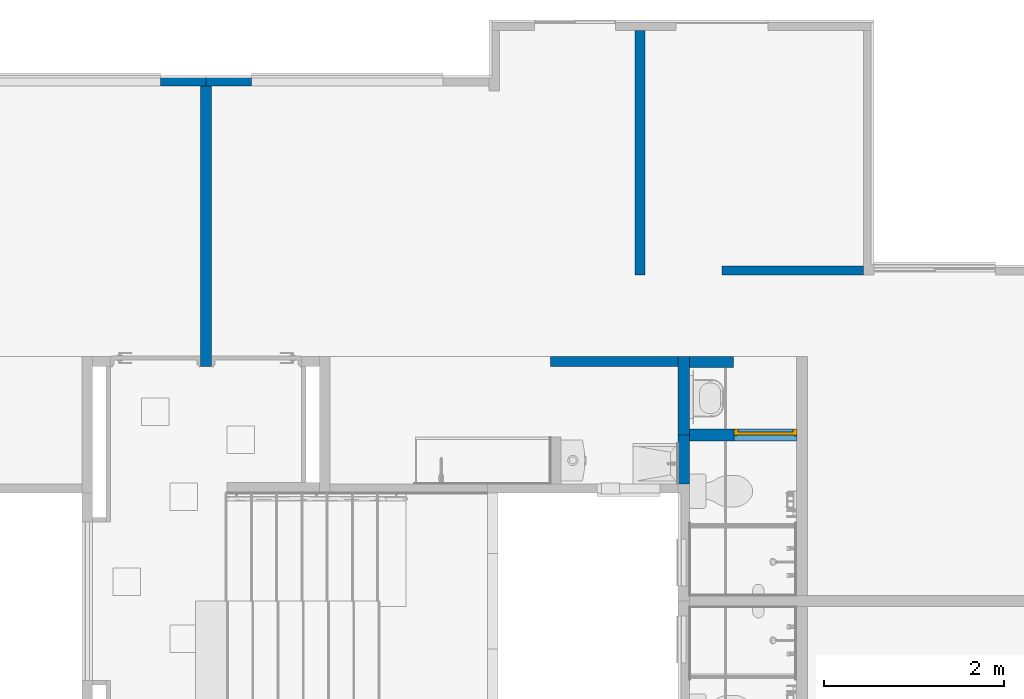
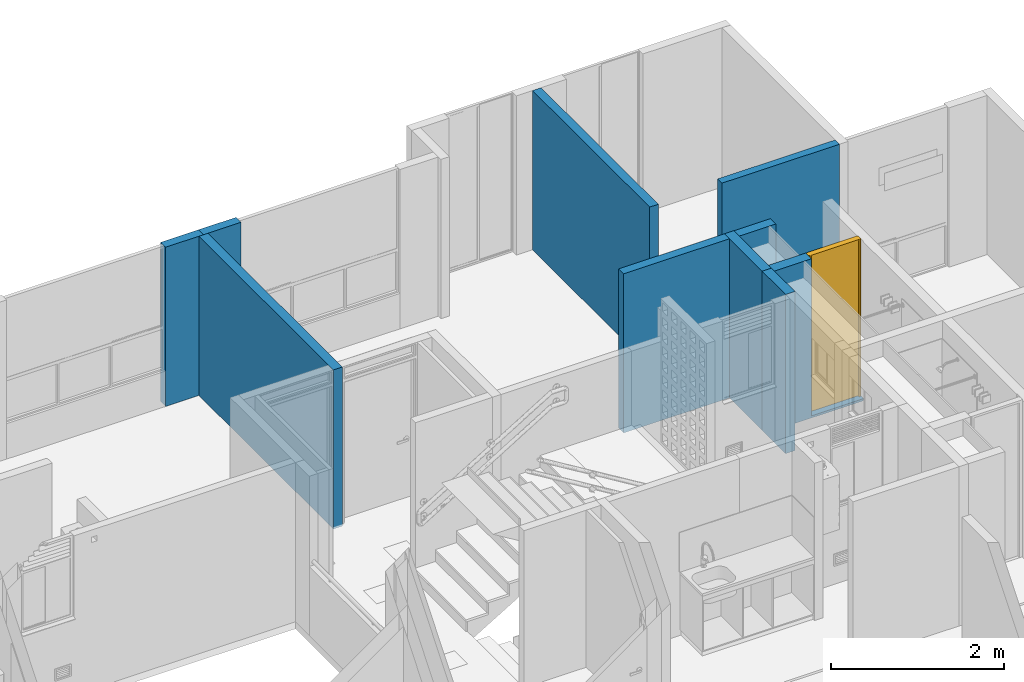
# One storey, part 22 of 48: 10 walls, 1 door, 1 opening.
"""IFC4 building model written with IfcOpenShell, lengths in metres."""

import ifcopenshell
import ifcopenshell.guid

model = None  # the IFC model being written
_history = None  # IfcOwnerHistory: only IFC2X3 demands one
_inside = {}  # id of a spatial element -> (the spatial element, [elements in it])
_under = {}  # id of a project, library or spatial element -> (it, [spatial elements below it])
_declared = {}  # id of a project -> (the project, [libraries it declares])
_typed = {}  # id of a type object -> (the type object, [elements of that type])
_made_of = {}  # id of a material, layer set ... -> (it, [elements and type objects made of it])


def new_model(schema):
    """Start an empty IFC model of exactly this schema.

    Asked for "IFC4X3", IfcOpenShell would pick the latest addendum, in which some entities
    have other attributes; the version numbers below select the first issue.
    IFC2X3 requires an IfcOwnerHistory on every rooted entity: one is made here for all.
    """
    global model, _history
    if schema == "IFC4X3":
        model = ifcopenshell.file(schema_version=(4, 3, 0, 0))
    else:
        model = ifcopenshell.file(schema=schema)
    _inside.clear()
    _under.clear()
    _declared.clear()
    _typed.clear()
    _made_of.clear()
    _history = None
    if model.schema == "IFC2X3":
        org = make("IfcOrganization", Name="unknown")
        user = make(
            "IfcPersonAndOrganization",
            ThePerson=make("IfcPerson", FamilyName="unknown"),
            TheOrganization=org,
        )
        app = make(
            "IfcApplication",
            ApplicationDeveloper=org,
            Version="unknown",
            ApplicationFullName="unknown",
            ApplicationIdentifier="unknown",
        )
        _history = make(
            "IfcOwnerHistory",
            OwningUser=user,
            OwningApplication=app,
            ChangeAction="ADDED",
            CreationDate=0,
        )
    return model


def make(cls, **values):
    """One entity of the class cls with the attributes given. An attribute that is None is left unset."""
    return model.create_entity(
        cls, **{name: value for name, value in values.items() if value is not None}
    )


def entity(cls, *values):
    """Any entity or typed value of the class cls, its attributes in the order of the schema. None: left unset."""
    e = model.create_entity(cls)
    for i, value in enumerate(values):
        if value is not None:
            e[i] = value
    return e


def rooted(cls, **values):
    """An entity with a GlobalId (a new one), such as an element, a storey or a relation."""
    return make(cls, GlobalId=ifcopenshell.guid.new(), OwnerHistory=_history, **values)


def si_unit(unit_type, name, prefix=None):
    """IfcSIUnit, for example si_unit("LENGTHUNIT", "METRE", prefix="MILLI")."""
    return make("IfcSIUnit", UnitType=unit_type, Prefix=prefix, Name=name)


def converted_unit(unit_type, name, factor, base, dimensions=None, offset=None):
    """IfcConversionBasedUnit, such as the inch: factor (a typed value) times the base unit."""
    return make(
        "IfcConversionBasedUnit"
        if offset is None
        else "IfcConversionBasedUnitWithOffset",
        ConversionOffset=offset,
        Dimensions=None
        if dimensions is None
        else entity("IfcDimensionalExponents", *dimensions),
        UnitType=unit_type,
        Name=name,
        ConversionFactor=make(
            "IfcMeasureWithUnit", ValueComponent=factor, UnitComponent=base
        ),
    )


def derived_unit(unit_type, elements):
    """IfcDerivedUnit: a product of units, each with its exponent."""
    return make(
        "IfcDerivedUnit",
        Elements=[
            make("IfcDerivedUnitElement", Unit=unit, Exponent=power)
            for unit, power in elements
        ],
        UnitType=unit_type,
    )


def assignment(units):
    """IfcUnitAssignment: the units of a project."""
    return None if units is None else make("IfcUnitAssignment", Units=units)


def point(xyz):
    """IfcCartesianPoint."""
    return None if xyz is None else make("IfcCartesianPoint", Coordinates=xyz)


def direction(xyz):
    """IfcDirection."""
    return None if xyz is None else make("IfcDirection", DirectionRatios=xyz)


def frame(location, z_axis=None, x_axis=None):
    """IfcAxis2Placement3D, a coordinate frame: its origin and axes. An axis left out is left unset."""
    return make(
        "IfcAxis2Placement3D",
        Location=point(location),
        Axis=direction(z_axis),
        RefDirection=direction(x_axis),
    )


def origin():
    """The frame at (0, 0, 0) with its axes left unset."""
    return frame((0.0, 0.0, 0.0))


def place(relative_to, where):
    """IfcLocalPlacement: puts the frame where relative to a parent placement (None: the world)."""
    return make(
        "IfcLocalPlacement", PlacementRelTo=relative_to, RelativePlacement=where
    )


def context(
    kind, dimensions, precision=None, world=None, true_north=None, identifier=None
):
    """IfcGeometricRepresentationContext, for example the 3D "Model" context."""
    return make(
        "IfcGeometricRepresentationContext",
        ContextIdentifier=identifier,
        ContextType=kind,
        CoordinateSpaceDimension=dimensions,
        Precision=precision,
        WorldCoordinateSystem=world,
        TrueNorth=true_north,
    )


def subcontext(parent, identifier, kind, view, scale=None):
    """IfcGeometricRepresentationSubContext, for example "Body" below "Model"."""
    return make(
        "IfcGeometricRepresentationSubContext",
        ContextIdentifier=identifier,
        ContextType=kind,
        ParentContext=parent,
        TargetScale=scale,
        TargetView=view,
    )


def project(units=None, contexts=None):
    """IfcProject with its units and contexts."""
    return rooted(
        "IfcProject",
        Name="project",
        RepresentationContexts=contexts,
        UnitsInContext=assignment(units),
    )


def spatial(cls, under=None, at=None, **own):
    """A site, building, storey or space (cls), placed at a placement, below another one or the project."""
    s = rooted(cls, ObjectPlacement=at, **own)
    if under is not None:
        _under.setdefault(under.id(), (under, []))[1].append(s)
    return s


def point_list(points):
    """IfcCartesianPointList2D or 3D."""
    cls = (
        "IfcCartesianPointList2D" if len(points[0]) == 2 else "IfcCartesianPointList3D"
    )
    return make(cls, CoordList=points)


def indexed_curve(points, segments=None, self_intersect=None):
    """IfcIndexedPolyCurve: lines and arcs through numbered points (the first is 1)."""
    return make(
        "IfcIndexedPolyCurve",
        Points=point_list(points),
        Segments=segments,
        SelfIntersect=self_intersect,
    )


def outline(outer, holes=None, kind="AREA"):
    """IfcArbitraryClosedProfileDef: a profile drawn as a closed curve; with holes, ...WithVoids."""
    if holes is None:
        return make("IfcArbitraryClosedProfileDef", ProfileType=kind, OuterCurve=outer)
    return make(
        "IfcArbitraryProfileDefWithVoids",
        ProfileType=kind,
        OuterCurve=outer,
        InnerCurves=holes,
    )


def extrude(swept, where, along, depth):
    """IfcExtrudedAreaSolid: the profile swept, set in the frame where, extruded along a direction by depth."""
    return make(
        "IfcExtrudedAreaSolid",
        SweptArea=swept,
        Position=where,
        ExtrudedDirection=direction(along),
        Depth=depth,
    )


def polygons(points, faces, closed=None, point_numbers=None):
    """IfcPolygonalFaceSet: a face is its outer loop, then its inner loops; points numbered from 1."""
    made = []
    for loops in faces:
        if len(loops) == 1:
            made.append(make("IfcIndexedPolygonalFace", CoordIndex=loops[0]))
        else:
            made.append(
                make(
                    "IfcIndexedPolygonalFaceWithVoids",
                    CoordIndex=loops[0],
                    InnerCoordIndices=loops[1:],
                )
            )
    return make(
        "IfcPolygonalFaceSet",
        Coordinates=point_list(points),
        Closed=closed,
        Faces=made,
        PnIndex=point_numbers,
    )


def shape(context_of_items, identifier, shape_type, items):
    """IfcShapeRepresentation: the items that make up one representation, for example the "Body"."""
    return make(
        "IfcShapeRepresentation",
        ContextOfItems=context_of_items,
        RepresentationIdentifier=identifier,
        RepresentationType=shape_type,
        Items=items,
    )


def source(mapping_origin, context_of_items, identifier, shape_type, items):
    """IfcRepresentationMap: a shape defined once, which mapped items show again and again."""
    return make(
        "IfcRepresentationMap",
        MappingOrigin=mapping_origin,
        MappedRepresentation=shape(context_of_items, identifier, shape_type, items),
    )


def transform(
    local_origin,
    x_axis=None,
    y_axis=None,
    z_axis=None,
    scale=None,
    scale2=None,
    scale3=None,
    uniform=True,
):
    """IfcCartesianTransformationOperator3D, or its non-uniform kind. x_axis, y_axis, z_axis: its Axis1, 2, 3."""
    if uniform:
        return make(
            "IfcCartesianTransformationOperator3D",
            Axis1=direction(x_axis),
            Axis2=direction(y_axis),
            LocalOrigin=point(local_origin),
            Scale=scale,
            Axis3=direction(z_axis),
        )
    return make(
        "IfcCartesianTransformationOperator3DnonUniform",
        Axis1=direction(x_axis),
        Axis2=direction(y_axis),
        LocalOrigin=point(local_origin),
        Scale=scale,
        Axis3=direction(z_axis),
        Scale2=scale2,
        Scale3=scale3,
    )


def mapped(mapping_source, mapping_target):
    """IfcMappedItem: shows the shape of a source again, moved by a transform."""
    return make(
        "IfcMappedItem", MappingSource=mapping_source, MappingTarget=mapping_target
    )


def material(Name=None, Category=None):
    """IfcMaterial."""
    return make("IfcMaterial", Name=Name, Category=Category)


def constituent(of_material, Name=None, Category=None, fraction=None):
    """IfcMaterialConstituent: one of the materials an element consists of."""
    return make(
        "IfcMaterialConstituent",
        Name=Name,
        Material=of_material,
        Fraction=fraction,
        Category=Category,
    )


def constituent_set(constituents=None, Name=None):
    """IfcMaterialConstituentSet."""
    return make(
        "IfcMaterialConstituentSet", Name=Name, MaterialConstituents=constituents
    )


def made_of(thing, what):
    """Note that an element or type object is made of a material, layer set ...; save() writes the relation."""
    if what is not None:
        _made_of.setdefault(what.id(), (what, []))[1].append(thing)
    return thing


def type_object(cls, material=None, **own):
    """A type object (cls), such as IfcWallType, which elements share."""
    return made_of(rooted(cls, **own), material)


def type_shapes(of_type, sources):
    """Give a type object the sources (RepresentationMaps) that its elements show as mapped items."""
    of_type.RepresentationMaps = sources


def element(
    cls,
    number,
    at=None,
    inside=None,
    cuts=None,
    type_object=None,
    material=None,
    context=None,
    identifier="Body",
    shape_type=None,
    held_by="IfcProductDefinitionShape",
    body=None,
    shapes=None,
    **own,
):
    """One element of the class cls, such as IfcWall. Its Tag is "e" and its number.

    at: its placement. inside: the storey or other place that contains it. cuts: it is an
    opening in that element (IfcRelVoidsElement). A single representation is given by context,
    identifier, shape_type and body (its items); several are given by shapes. held_by: the class
    of the entity that holds the representations. save() writes the other relations.
    """
    e = rooted(cls, Tag="e%d" % number, ObjectPlacement=at, **own)
    if body is not None:
        shapes = [shape(context, identifier, shape_type, body)]
    if shapes is not None:
        e.Representation = make(held_by, Representations=shapes)
    if inside is not None:
        _inside.setdefault(inside.id(), (inside, []))[1].append(e)
    if cuts is not None:
        rooted(
            "IfcRelVoidsElement", RelatingBuildingElement=cuts, RelatedOpeningElement=e
        )
    if type_object is not None:
        _typed.setdefault(type_object.id(), (type_object, []))[1].append(e)
    return made_of(e, material)


def fill(opening, filler):
    """IfcRelFillsElement: the door or window that sits in an opening."""
    return rooted(
        "IfcRelFillsElement",
        RelatingOpeningElement=opening,
        RelatedBuildingElement=filler,
    )


def aggregate(whole, parts):
    """IfcRelAggregates: a whole, such as a stair, and the parts it consists of."""
    return rooted("IfcRelAggregates", RelatingObject=whole, RelatedObjects=parts)


def save(model, path):
    """Write the relations noted so far, then the file.

    IfcRelAggregates (storeys below a building ...), IfcRelContainedInSpatialStructure (elements
    in a storey), IfcRelDefinesByType, IfcRelAssociatesMaterial and IfcRelDeclares: one each for
    every whole, place, type object, material and project.
    """
    for whole, parts in _under.values():
        aggregate(whole, parts)
    for where, things in _inside.values():
        rooted(
            "IfcRelContainedInSpatialStructure",
            RelatedElements=things,
            RelatingStructure=where,
        )
    for kind, things in _typed.values():
        rooted("IfcRelDefinesByType", RelatedObjects=things, RelatingType=kind)
    for what, things in _made_of.values():
        rooted("IfcRelAssociatesMaterial", RelatedObjects=things, RelatingMaterial=what)
    for by, libraries in _declared.values():
        rooted("IfcRelDeclares", RelatingContext=by, RelatedDefinitions=libraries)
    model.write(path)


model = new_model("IFC4")

# Units and contexts
model_context = context("Model", 3, precision=1e-05, world=origin(), true_north=direction((6.123031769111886e-17, 1.0)))
body_context = subcontext(model_context, "Body", "Model", "MODEL_VIEW")
ifc_project = project(units=[si_unit("LENGTHUNIT", "METRE"), si_unit("AREAUNIT", "SQUARE_METRE"), si_unit("VOLUMEUNIT", "CUBIC_METRE"), converted_unit("PLANEANGLEUNIT", "DEGREE", entity("IfcRatioMeasure", 0.017453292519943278), si_unit("PLANEANGLEUNIT", "RADIAN"), dimensions=[0, 0, 0, 0, 0, 0, 0]), si_unit("MASSUNIT", "GRAM", prefix="KILO"), derived_unit("MASSDENSITYUNIT", [(si_unit("MASSUNIT", "GRAM", prefix="KILO"), 1), (si_unit("LENGTHUNIT", "METRE"), -3)]), derived_unit("IONCONCENTRATIONUNIT", [(si_unit("MASSUNIT", "GRAM", prefix="KILO"), 1), (si_unit("LENGTHUNIT", "METRE"), -3)]), derived_unit("MOMENTOFINERTIAUNIT", [(si_unit("LENGTHUNIT", "METRE"), 4)]), si_unit("TIMEUNIT", "SECOND"), si_unit("FREQUENCYUNIT", "HERTZ"), si_unit("THERMODYNAMICTEMPERATUREUNIT", "DEGREE_CELSIUS"), derived_unit("THERMALTRANSMITTANCEUNIT", [(si_unit("MASSUNIT", "GRAM", prefix="KILO"), 1), (si_unit("THERMODYNAMICTEMPERATUREUNIT", "KELVIN"), -1), (si_unit("TIMEUNIT", "SECOND"), -3)]), derived_unit("THERMALCONDUCTANCEUNIT", [(si_unit("MASSUNIT", "GRAM", prefix="KILO"), 1), (si_unit("THERMODYNAMICTEMPERATUREUNIT", "KELVIN"), -1), (si_unit("TIMEUNIT", "SECOND"), -3), (si_unit("LENGTHUNIT", "METRE"), 1)]), derived_unit("VOLUMETRICFLOWRATEUNIT", [(si_unit("LENGTHUNIT", "METRE"), 3), (si_unit("TIMEUNIT", "SECOND"), -1)]), derived_unit("MASSFLOWRATEUNIT", [(si_unit("MASSUNIT", "GRAM", prefix="KILO"), 1), (si_unit("TIMEUNIT", "SECOND"), -1)]), derived_unit("ROTATIONALFREQUENCYUNIT", [(si_unit("TIMEUNIT", "SECOND"), -1)]), si_unit("ELECTRICCURRENTUNIT", "AMPERE"), si_unit("ELECTRICVOLTAGEUNIT", "VOLT"), si_unit("POWERUNIT", "WATT"), si_unit("FORCEUNIT", "NEWTON", prefix="KILO"), si_unit("ILLUMINANCEUNIT", "LUX"), si_unit("LUMINOUSFLUXUNIT", "LUMEN"), si_unit("LUMINOUSINTENSITYUNIT", "CANDELA"), derived_unit("USERDEFINED", [(si_unit("MASSUNIT", "GRAM", prefix="KILO"), -1), (si_unit("LENGTHUNIT", "METRE"), -2), (si_unit("TIMEUNIT", "SECOND"), 3), (si_unit("LUMINOUSFLUXUNIT", "LUMEN"), 1)]), derived_unit("USERDEFINED", [(si_unit("MASSUNIT", "GRAM", prefix="KILO"), 1), (si_unit("TIMEUNIT", "SECOND"), -3), (si_unit("LENGTHUNIT", "METRE"), 3), (si_unit("ELECTRICCURRENTUNIT", "AMPERE"), -2)]), derived_unit("SOUNDPOWERUNIT", [(si_unit("MASSUNIT", "GRAM", prefix="KILO"), 1), (si_unit("TIMEUNIT", "SECOND"), -3), (si_unit("LENGTHUNIT", "METRE"), 2)]), derived_unit("SOUNDPRESSUREUNIT", [(si_unit("MASSUNIT", "GRAM", prefix="KILO"), 1), (si_unit("LENGTHUNIT", "METRE"), -1), (si_unit("TIMEUNIT", "SECOND"), -2)]), derived_unit("LINEARVELOCITYUNIT", [(si_unit("LENGTHUNIT", "METRE"), 1), (si_unit("TIMEUNIT", "SECOND"), -1)]), si_unit("PRESSUREUNIT", "PASCAL"), derived_unit("USERDEFINED", [(si_unit("MASSUNIT", "GRAM", prefix="KILO"), 1), (si_unit("LENGTHUNIT", "METRE"), -2), (si_unit("TIMEUNIT", "SECOND"), -2)]), derived_unit("LINEARFORCEUNIT", [(si_unit("MASSUNIT", "GRAM", prefix="KILO"), 1), (si_unit("TIMEUNIT", "SECOND"), -2)]), derived_unit("PLANARFORCEUNIT", [(si_unit("MASSUNIT", "GRAM", prefix="KILO"), 1), (si_unit("LENGTHUNIT", "METRE"), -1), (si_unit("TIMEUNIT", "SECOND"), -2)]), derived_unit("SPECIFICHEATCAPACITYUNIT", [(si_unit("THERMODYNAMICTEMPERATUREUNIT", "KELVIN"), -1), (si_unit("LENGTHUNIT", "METRE"), 2), (si_unit("TIMEUNIT", "SECOND"), -2)]), derived_unit("HEATINGVALUEUNIT", [(si_unit("LENGTHUNIT", "METRE"), 2), (si_unit("TIMEUNIT", "SECOND"), -2)]), derived_unit("VAPORPERMEABILITYUNIT", [(si_unit("LENGTHUNIT", "METRE"), -1), (si_unit("TIMEUNIT", "SECOND"), 1)]), derived_unit("DYNAMICVISCOSITYUNIT", [(si_unit("MASSUNIT", "GRAM", prefix="KILO"), 1), (si_unit("TIMEUNIT", "SECOND"), -1), (si_unit("LENGTHUNIT", "METRE"), -1)]), derived_unit("THERMALEXPANSIONCOEFFICIENTUNIT", [(si_unit("THERMODYNAMICTEMPERATUREUNIT", "KELVIN"), -1)]), derived_unit("MODULUSOFELASTICITYUNIT", [(si_unit("MASSUNIT", "GRAM", prefix="KILO"), 1), (si_unit("LENGTHUNIT", "METRE"), -1), (si_unit("TIMEUNIT", "SECOND"), -2)]), derived_unit("ISOTHERMALMOISTURECAPACITYUNIT", [(si_unit("LENGTHUNIT", "METRE"), 3), (si_unit("MASSUNIT", "GRAM", prefix="KILO"), -1)]), derived_unit("MOISTUREDIFFUSIVITYUNIT", [(si_unit("TIMEUNIT", "SECOND"), -1), (si_unit("LENGTHUNIT", "METRE"), 2)])], contexts=[model_context])

# Site, building, storey
site_placement = place(None, origin())
site = spatial("IfcSite", under=ifc_project, at=site_placement, Name="Default", CompositionType="ELEMENT")
building_placement = place(site_placement, origin())
building = spatial("IfcBuilding", under=site, at=building_placement, CompositionType="ELEMENT")
storey_placement = place(building_placement, frame((0.0, 0.0, 9.40000000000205)))
storey = spatial("IfcBuildingStorey", under=building, at=storey_placement, Name="Nivel 5", CompositionType="ELEMENT", Elevation=9.40000000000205)

# Walls
ifc_material_1 = material(Name="Concreto (Aire)", Category="Materials")
wall_type_1 = type_object("IfcWallType", Name="Basic Wall:B2010 - 0.12m - Muro interior en concreto", PredefinedType="STANDARD")
wall_1_placement = place(storey_placement, frame((9.32250000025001, -3.8249999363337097, 0.0), z_axis=(0.0, 0.0, 1.0), x_axis=(0.0, 1.0, 0.0)))
element("IfcWall", 1, at=wall_1_placement, inside=storey, type_object=wall_type_1, material=ifc_material_1, Name="Basic Wall:B2010 - 0.12m - Muro interior en concreto", ObjectType="Basic Wall:B2010 - 0.12m - Muro interior en concreto", PredefinedType="NOTDEFINED", context=body_context, shape_type="SweptSolid", body=[
    extrude(outline(indexed_curve([(3.1149999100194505, 0.06000000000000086), (8.03641024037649e-16, 0.060000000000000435), (2.792261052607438e-16, -0.060000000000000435), (3.1149999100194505, -0.06000000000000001), (3.1149999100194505, 0.06000000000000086)], self_intersect=False)), origin(), (0.0, 0.0, 1.0), 2.250000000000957),
])
ifc_material_2 = material(Name="LADRILLO CLARO", Category="Materials")
wall_type_2 = type_object("IfcWallType", Name="Basic Wall:B2010 - 0.115m - ME mampostería no estructural - Ladrillo", PredefinedType="STANDARD")
wall_2_placement = place(storey_placement, frame((8.817499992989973, -0.6525000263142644, 0.0)))
element("IfcWall", 2, at=wall_2_placement, inside=storey, type_object=wall_type_2, material=ifc_material_2, Name="Basic Wall:B2010 - 0.115m - ME mampostería no estructural - Ladrillo", ObjectType="Basic Wall:B2010 - 0.115m - ME mampostería no estructural - Ladrillo", PredefinedType="NOTDEFINED", context=body_context, shape_type="SweptSolid", body=[
    extrude(outline(indexed_curve([(0.505000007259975, 0.057500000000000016), (-1.5987656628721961e-15, 0.05749999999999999), (-5.6696859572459e-16, -0.05750000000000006), (0.505000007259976, -0.05750000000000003), (0.505000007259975, 0.057500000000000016)], self_intersect=False)), origin(), (0.0, 0.0, 1.0), 2.2500000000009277),
])
wall_3_placement = place(storey_placement, frame((9.827500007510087, -0.6525000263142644, 0.0), z_axis=(0.0, 0.0, 1.0), x_axis=(-1.0, 0.0, 0.0)))
element("IfcWall", 3, at=wall_3_placement, inside=storey, type_object=wall_type_2, material=ifc_material_2, Name="Basic Wall:B2010 - 0.115m - ME mampostería no estructural - Ladrillo", ObjectType="Basic Wall:B2010 - 0.115m - ME mampostería no estructural - Ladrillo", PredefinedType="NOTDEFINED", context=body_context, shape_type="SweptSolid", body=[
    extrude(outline(indexed_curve([(0.5050000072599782, 0.05750000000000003), (-5.6696859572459e-16, 0.05750000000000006), (5.669685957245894e-16, -0.05749999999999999), (0.5050000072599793, -0.057500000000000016), (0.5050000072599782, 0.05750000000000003)], self_intersect=False)), origin(), (0.0, 0.0, 1.0), 2.2500000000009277),
])
ifc_material_3 = material(Name="Ladrillo claro (Aire)", Category="Materials")
wall_type_3 = type_object("IfcWallType", Name="Basic Wall:B2010 - 0.115m - Muro interior en mampostería - Ladrillo", PredefinedType="STANDARD")
wall_4_placement = place(storey_placement, frame((14.135000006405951, -0.0950000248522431, 0.0), z_axis=(0.0, 0.0, 1.0), x_axis=(0.0, -1.0, 0.0)))
element("IfcWall", 4, at=wall_4_placement, inside=storey, type_object=wall_type_3, material=ifc_material_3, Name="Basic Wall:B2010 - 0.115m - Muro interior en mampostería - Ladrillo", ObjectType="Basic Wall:B2010 - 0.115m - Muro interior en mampostería - Ladrillo", PredefinedType="NOTDEFINED", context=body_context, shape_type="SweptSolid", body=[
    extrude(outline(indexed_curve([(2.7150000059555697, 0.05749999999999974), (-3.2594452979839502e-18, 0.057499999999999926), (3.2594452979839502e-18, -0.057499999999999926), (2.7150000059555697, -0.05750000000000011), (2.7150000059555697, 0.05749999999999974)], self_intersect=False)), origin(), (0.0, 0.0, 1.0), 2.2499999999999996),
])
wall_5_placement = place(storey_placement, frame((14.557500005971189, -3.7675000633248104, 0.0), z_axis=(0.0, 0.0, 1.0), x_axis=(-1.0, 0.0, 0.0)))
element("IfcWall", 5, at=wall_5_placement, inside=storey, type_object=wall_type_3, material=ifc_material_3, Name="Basic Wall:B2010 - 0.115m - Muro interior en mampostería - Ladrillo", ObjectType="Basic Wall:B2010 - 0.115m - Muro interior en mampostería - Ladrillo", PredefinedType="NOTDEFINED", context=body_context, shape_type="SweptSolid", body=[
    extrude(outline(indexed_curve([(1.414999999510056, 0.057499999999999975), (1.9595423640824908e-16, 0.057499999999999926), (-1.9595423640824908e-16, -0.057499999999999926), (1.4149999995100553, -0.05749999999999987), (1.414999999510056, 0.057499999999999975)], self_intersect=False)), origin(), (0.0, 0.0, 1.0), 2.2499999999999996),
])
wall_type_4 = type_object("IfcWallType", Name="Basic Wall:B2010 - 0.10m - Muro interior en concreto", PredefinedType="STANDARD")
wall_6_placement = place(storey_placement, frame((16.612500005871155, -2.7600000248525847, 0.0), z_axis=(0.0, 0.0, 1.0), x_axis=(-1.0, 0.0, 0.0)))
element("IfcWall", 6, at=wall_6_placement, inside=storey, type_object=wall_type_4, material=ifc_material_1, Name="Basic Wall:B2010 - 0.10m - Muro interior en concreto", ObjectType="Basic Wall:B2010 - 0.10m - Muro interior en concreto", PredefinedType="NOTDEFINED", context=body_context, shape_type="SweptSolid", body=[
    extrude(outline(indexed_curve([(1.569999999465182, 0.050000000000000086), (-1.0889063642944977e-15, 0.05), (-3.2425621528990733e-15, -0.05), (1.5699999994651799, -0.04999999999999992), (1.569999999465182, 0.050000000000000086)], self_intersect=False)), origin(), (0.0, 0.0, 1.0), 2.2499999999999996),
])
ifc_material_4 = material(Name="Pañete", Category="Materials")
ifc_constituent_1 = constituent(ifc_material_4, Name="Pañete", Category="Materials")
ifc_constituent_2 = constituent(ifc_material_3, Name="Ladrillo claro (Aire)", Category="Materials")
ifc_constituent_set_1 = constituent_set(constituents=[ifc_constituent_1, ifc_constituent_2], Name="Basic Wall:B2010 - 0.115m - Muro interior en mampostería - Ladrillo + Pañete")
wall_type_5 = type_object("IfcWallType", Name="Basic Wall:B2010 - 0.115m - Muro interior en mampostería - Ladrillo + Pañete", PredefinedType="STANDARD", material=ifc_constituent_set_1)
wall_7_placement = place(storey_placement, frame((15.172500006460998, -3.7725000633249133, 0.0), z_axis=(0.0, 0.0, 1.0), x_axis=(-1.0, 0.0, 0.0)))
element("IfcWall", 7, at=wall_7_placement, inside=storey, type_object=wall_type_5, material=ifc_constituent_set_1, Name="Basic Wall:B2010 - 0.115m - Muro interior en mampostería - Ladrillo + Pañete", ObjectType="Basic Wall:B2010 - 0.115m - Muro interior en mampostería - Ladrillo + Pañete", PredefinedType="NOTDEFINED", context=body_context, shape_type="SweptSolid", body=[
    extrude(outline(indexed_curve([(-0.004999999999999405, -0.24500000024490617), (0.0050000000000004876, -0.24500000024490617), (0.004999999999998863, 0.245000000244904), (-0.005000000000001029, 0.245000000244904), (-0.004999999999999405, -0.24500000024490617)], self_intersect=False)), frame((0.24500000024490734, 0.057499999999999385, 0.0), z_axis=(0.0, 0.0, 1.0), x_axis=(0.0, -1.0, 0.0)), (0.0, 0.0, 1.0), 2.2500000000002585),
    extrude(outline(indexed_curve([(-0.057499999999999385, -0.245000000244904), (0.05750000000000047, -0.245000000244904), (0.057499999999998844, 0.24500000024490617), (-0.05750000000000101, 0.24500000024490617), (-0.057499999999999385, -0.245000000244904)], self_intersect=False)), frame((0.24500000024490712, -0.004999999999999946, 0.0), z_axis=(0.0, 0.0, 1.0), x_axis=(0.0, 1.0, 0.0)), (0.0, 0.0, 1.0), 2.2500000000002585),
])

# Wall, opening, door
ifc_constituent_3 = constituent(ifc_material_4, Name="Pañete", Category="Materials")
ifc_constituent_4 = constituent(ifc_material_2, Name="LADRILLO CLARO", Category="Materials")
ifc_constituent_5 = constituent(ifc_material_4, Name="Pañete (2)", Category="Materials")
ifc_constituent_set_2 = constituent_set(constituents=[ifc_constituent_3, ifc_constituent_4, ifc_constituent_5], Name="Basic Wall:B2010 - 0.115m - MI  mampostería no estructural - Pañete + Ladrillo + Pañete")
wall_type_6 = type_object("IfcWallType", Name="Basic Wall:B2010 - 0.115m - MI  mampostería no estructural - Pañete + Ladrillo + Pañete", PredefinedType="STANDARD", material=ifc_constituent_set_2)
wall_8_placement = place(storey_placement, frame((14.682500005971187, -4.582500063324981, 0.0)))
wall_8 = element("IfcWall", 8, at=wall_8_placement, inside=storey, type_object=wall_type_6, material=ifc_constituent_set_2, Name="Basic Wall:B2010 - 0.115m - MI  mampostería no estructural - Pañete + Ladrillo + Pañete", ObjectType="Basic Wall:B2010 - 0.115m - MI  mampostería no estructural - Pañete + Ladrillo + Pañete", PredefinedType="NOTDEFINED", context=body_context, shape_type="SweptSolid", body=[
    extrude(outline(indexed_curve([(-1.132500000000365, -0.5199994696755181), (1.1175000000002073, -0.5199994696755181), (1.1175000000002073, -0.12999946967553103), (1.1175000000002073, -0.10999946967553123), (1.1175000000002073, -0.0250005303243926), (-1.1025000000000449, -0.0250005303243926), (-1.1025000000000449, 0.6649994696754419), (-1.132500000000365, 0.6649994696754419), (-1.132500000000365, -0.5199994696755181)], self_intersect=False)), frame((0.5199994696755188, -0.06750000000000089, 1.1325000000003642), z_axis=(0.0, 1.0, 0.0), x_axis=(0.0, 0.0, 1.0)), (0.0, 0.0, 1.0), 0.010000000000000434),
    extrude(outline(indexed_curve([(-0.7600000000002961, -0.5599992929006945), (1.4900000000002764, -0.5599992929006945), (1.4900000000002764, -0.06500035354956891), (-0.7299999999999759, -0.06500035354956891), (-0.7299999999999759, 0.6249996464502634), (-0.7600000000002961, 0.6249996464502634), (-0.7600000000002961, -0.5599992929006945)], self_intersect=False)), frame((0.5599992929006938, 0.057499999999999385, 0.760000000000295), z_axis=(0.0, 1.0, 0.0), x_axis=(0.0, 0.0, 1.0)), (0.0, 0.0, 1.0), 0.009999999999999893),
    extrude(outline(indexed_curve([(-0.7600000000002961, -0.5633326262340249), (1.4900000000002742, -0.563332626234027), (1.4900000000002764, -0.06833368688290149), (-0.7299999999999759, -0.06833368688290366), (-0.7299999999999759, 0.6316663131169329), (-0.7600000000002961, 0.6316663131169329), (-0.7600000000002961, -0.5633326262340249)], self_intersect=False)), frame((0.5633326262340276, -0.05750000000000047, 0.760000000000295), z_axis=(0.0, 1.0, 0.0), x_axis=(0.0, 0.0, 1.0)), (0.0, 0.0, 1.0), 0.11499999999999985),
])
opening_placement = place(wall_8_placement, frame((1.1949989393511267, 0.06749999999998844, 0.029999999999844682)))
opening = element("IfcOpeningElement", 9, at=opening_placement, cuts=wall_8, Name="C1030 - Puerta batiente - Madera+Aluminio:C1030 - 0.70 x 2.22 - Puerta batiente - Madera+ Metal:1", PredefinedType="OPENING", context=body_context, shape_type="SweptSolid", body=[
    extrude(outline(indexed_curve([(1.438182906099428e-16, 0.7000000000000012), (1.438182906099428e-16, 0.0), (2.219999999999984, 0.0), (2.2199999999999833, 0.7000000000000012), (1.438182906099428e-16, 0.7000000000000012)], self_intersect=False)), frame((0.0, 0.0, 0.0), z_axis=(0.0, -1.0, 0.0), x_axis=(0.0, 0.0, 1.0)), (0.0, 0.0, 1.0), 0.13499999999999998),
])
ifc_material_5 = material(Name="<Unnamed>")
door_type = type_object("IfcDoorType", Name="C1030 - Puerta batiente - Madera+Aluminio:C1030 - 0.70 x 2.22 - Puerta batiente - Madera+ Metal", OperationType="SINGLE_SWING_LEFT", PredefinedType="DOOR", material=ifc_material_5)
shared_shape = source(origin(), body_context, "Body", "Tessellation", [
    polygons([(0.6699999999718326, 0.06499999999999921, 0.009880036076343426), (0.6699999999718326, 0.0324999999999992, 0.009880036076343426), (0.030000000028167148, 0.0324999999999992, 0.009880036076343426), (0.030000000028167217, 0.06499999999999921, 0.009880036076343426), (0.6699999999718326, 0.06499999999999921, 2.2050000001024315), (0.6699999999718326, 0.0324999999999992, 2.2050000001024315), (0.030000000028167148, 0.0324999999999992, 2.2050000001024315), (0.030000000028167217, 0.06499999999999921, 2.2050000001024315)], [[[1, 2, 3, 4]], [[5, 6, 2, 1]], [[6, 7, 3, 2]], [[7, 8, 4, 3]], [[8, 5, 1, 4]], [[5, 8, 7, 6]]], closed=True),
    polygons([(0.6849999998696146, 0.0649999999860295, 0.0), (0.7, 0.0649999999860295, 0.0), (0.7, 0.0074999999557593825, 0.0), (0.6849999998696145, 0.007499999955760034, 0.0), (0.6849999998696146, -5.075939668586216e-17, 0.0), (0.6549999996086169, -1.6919798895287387e-17, 0.0), (0.6549999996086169, 0.04000000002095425, 0.0), (0.6699999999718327, 0.04000000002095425, 0.0), (0.6699999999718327, 0.07999999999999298, 0.0), (0.6849999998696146, 0.07999999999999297, 0.0), (0.7, 0.0074999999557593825, 2.2199999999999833), (0.6849999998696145, 0.007499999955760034, 2.2199999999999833), (0.6849999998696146, 0.0649999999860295, 2.2199999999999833), (0.7, 0.0649999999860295, 2.2199999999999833), (0.015000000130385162, 0.06499999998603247, 0.0), (0.015000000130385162, 0.07999999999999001, 0.0), (0.030000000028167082, 0.07999999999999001, 0.0), (0.030000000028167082, 0.04000000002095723, 0.0), (0.04500000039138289, 0.04000000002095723, 0.0), (0.04500000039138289, 0.0, 0.0), (0.01500000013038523, 0.0, 0.0), (0.015000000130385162, 0.007499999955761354, 0.0), (0.0, 0.007499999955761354, 0.0), (0.0, 0.06499999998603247, 0.0), (0.0, 0.06499999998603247, 2.2199999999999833), (0.015000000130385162, 0.06499999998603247, 2.2199999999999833), (0.015000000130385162, 0.007499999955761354, 2.2199999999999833), (0.0, 0.007499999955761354, 2.2199999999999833), (0.04500000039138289, 0.04000000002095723, 2.2050000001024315), (0.04500000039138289, 0.03250000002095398, 2.2050000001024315), (0.04500000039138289, 0.03250000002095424, 2.189999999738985), (0.04500000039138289, 0.0, 2.189999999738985), (0.6549999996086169, -1.6919798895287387e-17, 2.189999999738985), (0.6549999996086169, 0.032500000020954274, 2.189999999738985), (0.6549999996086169, 0.03250000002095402, 2.2050000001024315), (0.6549999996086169, 0.04000000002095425, 2.2050000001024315), (0.030000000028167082, 0.07999999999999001, 2.2199999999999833), (0.030000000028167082, 0.07249999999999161, 2.2199999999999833), (0.030000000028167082, 0.07249999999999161, 2.2050000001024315), (0.030000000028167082, 0.04000000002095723, 2.2050000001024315), (0.6699999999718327, 0.04000000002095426, 2.2050000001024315), (0.6699999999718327, 0.07249999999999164, 2.2050000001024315), (0.6699999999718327, 0.07249999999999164, 2.2199999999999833), (0.6699999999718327, 0.07999999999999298, 2.2199999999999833), (0.015000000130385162, 0.07999999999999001, 2.2199999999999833), (0.6849999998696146, -5.075939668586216e-17, 2.2199999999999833), (0.01500000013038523, 0.0, 2.2199999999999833), (0.6849999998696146, 0.07999999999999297, 2.2199999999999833)], [[[1, 2, 3, 4, 5, 6, 7, 8, 9, 10]], [[11, 12, 4, 3]], [[13, 14, 2, 1]], [[15, 16, 17, 18, 19, 20, 21, 22, 23, 24]], [[25, 26, 15, 24]], [[27, 28, 23, 22]], [[20, 19, 29, 30, 31, 32]], [[7, 6, 33, 34, 35, 36]], [[18, 17, 37, 38, 39, 40]], [[9, 8, 41, 42, 43, 44]], [[28, 25, 24, 23]], [[14, 11, 3, 2]], [[26, 45, 16, 15]], [[45, 37, 17, 16]], [[19, 18, 40, 29]], [[21, 20, 32, 33, 6, 5, 46, 47]], [[47, 27, 22, 21]], [[12, 46, 5, 4]], [[48, 13, 1, 10]], [[26, 25, 28, 27, 47, 46, 12, 11, 14, 13, 48, 44, 43, 38, 37, 45]], [[39, 42, 41, 36, 35, 30, 29, 40]], [[33, 32, 31, 34]], [[8, 7, 36, 41]], [[44, 48, 10, 9]], [[34, 31, 30, 35]], [[42, 39, 38, 43]]], closed=True),
])
type_shapes(door_type, [shared_shape])
door_placement = place(opening_placement, frame((0.0, 0.0, 0.0), z_axis=(0.0, 0.0, 1.0), x_axis=(-1.0, 0.0, 0.0)))
door = element("IfcDoor", 10, at=door_placement, inside=storey, type_object=door_type, material=ifc_material_5, Name="C1030 - Puerta batiente - Madera+Aluminio:C1030 - 0.70 x 2.22 - Puerta batiente - Madera+ Metal", ObjectType="C1030 - Puerta batiente - Madera+Aluminio:C1030 - 0.70 x 2.22 - Puerta batiente - Madera+ Metal", OperationType="NOTDEFINED", OverallHeight=2.2199999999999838, OverallWidth=0.7000000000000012, PredefinedType="DOOR", context=body_context, shape_type="MappedRepresentation", body=[
    mapped(shared_shape, transform((0.0, 0.0, 0.0), scale=1.0)),
])
fill(opening, door)

# Walls
ifc_material_6 = material(Name="Pañete, estuco y pintura", Category="Materials")
ifc_constituent_6 = constituent(ifc_material_6, Name="Pañete, estuco y pintura", Category="Materials")
ifc_constituent_7 = constituent(ifc_material_3, Name="Ladrillo claro (Aire)", Category="Materials")
ifc_constituent_set_3 = constituent_set(constituents=[ifc_constituent_6, ifc_constituent_7], Name="Basic Wall:B2010 - 0.115m - Muro interior en mampostería - Ladrillo + Pañete+ estuco+ pintura")
wall_type_7 = type_object("IfcWallType", Name="Basic Wall:B2010 - 0.115m - Muro interior en mampostería - Ladrillo + Pañete+ estuco+ pintura", PredefinedType="STANDARD", material=ifc_constituent_set_3)
wall_9_placement = place(storey_placement, frame((14.620000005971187, -3.7100000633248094, 0.0), z_axis=(0.0, 0.0, 1.0), x_axis=(0.0, -1.0, 0.0)))
element("IfcWall", 11, at=wall_9_placement, inside=storey, type_object=wall_type_7, material=ifc_constituent_set_3, Name="Basic Wall:B2010 - 0.115m - Muro interior en mampostería - Ladrillo + Pañete+ estuco+ pintura", ObjectType="Basic Wall:B2010 - 0.115m - Muro interior en mampostería - Ladrillo + Pañete+ estuco+ pintura", PredefinedType="NOTDEFINED", context=body_context, shape_type="SweptSolid", body=[
    extrude(outline(indexed_curve([(-0.35916666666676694, -0.0033333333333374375), (0.3208333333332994, -0.0033333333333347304), (0.44583333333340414, -0.003333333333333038), (0.4458333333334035, 0.0066666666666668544), (-0.42666666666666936, 0.006666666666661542), (-0.4266666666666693, -0.0033333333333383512), (-0.35916666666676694, -0.0033333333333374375)], self_intersect=False)), frame((0.4458333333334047, 0.05916666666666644, 0.0), z_axis=(0.0, 0.0, 1.0), x_axis=(-1.0, 0.0, 0.0)), (0.0, 0.0, 1.0), 2.250000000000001),
    extrude(outline(indexed_curve([(-0.2570000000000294, -0.046000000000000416), (0.5005000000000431, -0.046000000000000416), (0.5005000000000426, 0.06899999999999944), (-0.3720000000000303, 0.06899999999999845), (-0.37200000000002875, -0.046000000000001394), (-0.2570000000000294, -0.046000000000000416)], self_intersect=False)), frame((0.37200000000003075, -0.016499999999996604, 0.0)), (0.0, 0.0, 1.0), 2.250000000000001),
])
wall_10_placement = place(storey_placement, frame((14.620000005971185, -4.582500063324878, 0.0), z_axis=(0.0, 0.0, 1.0), x_axis=(0.0, -1.0, 0.0)))
element("IfcWall", 12, at=wall_10_placement, inside=storey, type_object=wall_type_7, material=ifc_constituent_set_3, Name="Basic Wall:B2010 - 0.115m - Muro interior en mampostería - Ladrillo + Pañete+ estuco+ pintura", ObjectType="Basic Wall:B2010 - 0.115m - Muro interior en mampostería - Ladrillo + Pañete+ estuco+ pintura", PredefinedType="NOTDEFINED", context=body_context, shape_type="SweptSolid", body=[
    extrude(outline(indexed_curve([(0.162805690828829, -0.004000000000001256), (0.23030569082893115, -0.004000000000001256), (0.23030569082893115, 0.005999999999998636), (-0.3117085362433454, 0.006000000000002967), (-0.3117085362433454, -0.003999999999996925), (0.162805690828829, -0.004000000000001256)], self_intersect=False)), frame((0.23030569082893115, 0.05850000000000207, 0.0), z_axis=(0.0, 0.0, 1.0), x_axis=(-1.0, 0.0, 0.0)), (0.0, 0.0, 1.0), 2.250000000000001),
    extrude(outline(indexed_curve([(-0.12467143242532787, -0.0383333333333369), (-0.09067143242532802, -0.0383333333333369), (0.3248428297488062, -0.03833333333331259), (0.32484282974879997, 0.07666666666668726), (-0.21717139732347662, 0.07666666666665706), (-0.21717139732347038, -0.03833333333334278), (-0.12467143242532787, -0.0383333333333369)], self_intersect=False)), frame((0.2171713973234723, -0.024166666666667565, 0.0)), (0.0, 0.0, 1.0), 2.250000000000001),
])

save(model, "model.ifc")
